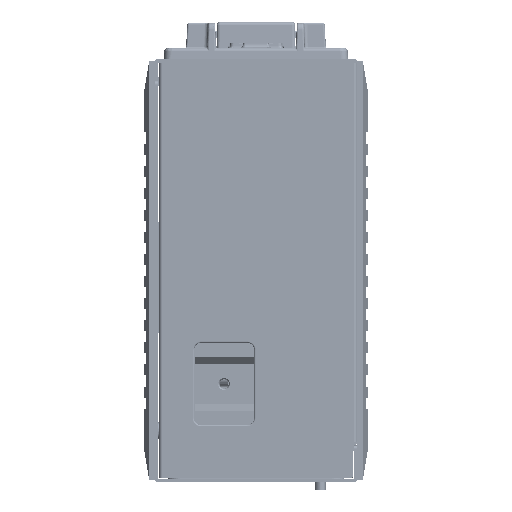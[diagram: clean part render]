
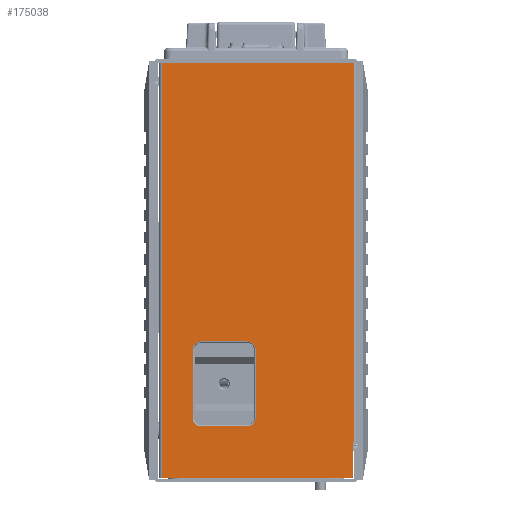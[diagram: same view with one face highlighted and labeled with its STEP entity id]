
A CAD part, left-side view. The second image highlights one B-rep face of the part: STEP entity #175038.
In plain terms, the highlighted planar face has unit normal (-1, 0, 0).
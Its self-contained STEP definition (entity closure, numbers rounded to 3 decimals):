
#3411=DIRECTION('',(0.,0.,-1.));
#3412=VECTOR('',#3411,103.);
#3413=CARTESIAN_POINT('',(-78.5,0.,55.3));
#3414=LINE('',#3413,#3412);
#3427=DIRECTION('',(0.,1.,0.));
#3428=VECTOR('',#3427,0.1);
#3429=CARTESIAN_POINT('',(-78.5,0.,-47.7));
#3430=LINE('',#3429,#3428);
#36468=DIRECTION('',(0.,0.,1.));
#36469=VECTOR('',#36468,8.9);
#36470=CARTESIAN_POINT('',(-78.5,0.1,-56.6));
#36471=LINE('',#36470,#36469);
#36472=CARTESIAN_POINT('',(-78.5,1.1,-56.6));
#36473=DIRECTION('',(-1.,0.,0.));
#36474=DIRECTION('',(0.,0.,-1.));
#36475=AXIS2_PLACEMENT_3D('',#36472,#36473,#36474);
#36477=DIRECTION('',(0.,-1.,0.));
#36478=VECTOR('',#36477,50.8);
#36479=CARTESIAN_POINT('',(-78.5,51.9,-57.6));
#36480=LINE('',#36479,#36478);
#36481=DIRECTION('',(0.,1.,0.));
#36482=VECTOR('',#36481,51.9);
#36483=CARTESIAN_POINT('',(-78.5,0.,55.3));
#36484=LINE('',#36483,#36482);
#36485=CARTESIAN_POINT('',(-78.5,41.4,-22.75));
#36486=DIRECTION('',(1.,0.,0.));
#36487=DIRECTION('',(0.,1.,0.));
#36488=AXIS2_PLACEMENT_3D('',#36485,#36486,#36487);
#36490=CARTESIAN_POINT('',(-78.5,41.4,-41.25));
#36491=DIRECTION('',(1.,0.,0.));
#36492=DIRECTION('',(0.,0.,-1.));
#36493=AXIS2_PLACEMENT_3D('',#36490,#36491,#36492);
#36495=CARTESIAN_POINT('',(-78.5,28.9,-41.25));
#36496=DIRECTION('',(1.,0.,0.));
#36497=DIRECTION('',(0.,-1.,0.));
#36498=AXIS2_PLACEMENT_3D('',#36495,#36496,#36497);
#36500=CARTESIAN_POINT('',(-78.5,28.9,-22.75));
#36501=DIRECTION('',(1.,0.,0.));
#36502=DIRECTION('',(0.,0.,1.));
#36503=AXIS2_PLACEMENT_3D('',#36500,#36501,#36502);
#36517=DIRECTION('',(0.,0.,1.));
#36518=VECTOR('',#36517,112.9);
#36519=CARTESIAN_POINT('',(-78.5,51.9,-57.6));
#36520=LINE('',#36519,#36518);
#36533=DIRECTION('',(0.,1.,0.));
#36534=VECTOR('',#36533,12.5);
#36535=CARTESIAN_POINT('',(-78.5,28.9,-20.45));
#36536=LINE('',#36535,#36534);
#36551=DIRECTION('',(0.,0.,-1.));
#36552=VECTOR('',#36551,18.5);
#36553=CARTESIAN_POINT('',(-78.5,43.7,-22.75));
#36554=LINE('',#36553,#36552);
#36569=DIRECTION('',(0.,-1.,0.));
#36570=VECTOR('',#36569,12.5);
#36571=CARTESIAN_POINT('',(-78.5,41.4,-43.55));
#36572=LINE('',#36571,#36570);
#36587=DIRECTION('',(0.,0.,1.));
#36588=VECTOR('',#36587,18.5);
#36589=CARTESIAN_POINT('',(-78.5,26.6,-41.25));
#36590=LINE('',#36589,#36588);
#80819=CARTESIAN_POINT('',(-78.5,0.1,-47.7));
#80820=VERTEX_POINT('',#80819);
#80847=CARTESIAN_POINT('',(-78.5,0.1,-56.6));
#80848=VERTEX_POINT('',#80847);
#80849=CARTESIAN_POINT('',(-78.5,0.,-47.7));
#80850=VERTEX_POINT('',#80849);
#80855=CARTESIAN_POINT('',(-78.5,0.,55.3));
#80856=CARTESIAN_POINT('',(-78.5,51.9,55.3));
#80857=VERTEX_POINT('',#80855);
#80858=VERTEX_POINT('',#80856);
#80871=CARTESIAN_POINT('',(-78.5,1.1,-57.6));
#80872=VERTEX_POINT('',#80871);
#80879=CARTESIAN_POINT('',(-78.5,51.9,-57.6));
#80880=VERTEX_POINT('',#80879);
#80935=CARTESIAN_POINT('',(-78.5,28.9,-20.45));
#80936=CARTESIAN_POINT('',(-78.5,41.4,-20.45));
#80937=VERTEX_POINT('',#80935);
#80938=VERTEX_POINT('',#80936);
#80955=CARTESIAN_POINT('',(-78.5,26.6,-22.75));
#80956=VERTEX_POINT('',#80955);
#80957=CARTESIAN_POINT('',(-78.5,43.7,-22.75));
#80958=VERTEX_POINT('',#80957);
#80975=CARTESIAN_POINT('',(-78.5,26.6,-41.25));
#80976=VERTEX_POINT('',#80975);
#80977=CARTESIAN_POINT('',(-78.5,43.7,-41.25));
#80978=VERTEX_POINT('',#80977);
#80991=CARTESIAN_POINT('',(-78.5,28.9,-43.55));
#80992=VERTEX_POINT('',#80991);
#80995=CARTESIAN_POINT('',(-78.5,41.4,-43.55));
#80996=VERTEX_POINT('',#80995);
#175004=CARTESIAN_POINT('',(-78.5,0.,-47.7));
#175005=DIRECTION('',(1.,0.,0.));
#175006=DIRECTION('',(0.,0.,-1.));
#175007=AXIS2_PLACEMENT_3D('',#175004,#175005,#175006);
#175008=PLANE('',#175007);
#175010=ORIENTED_EDGE('',*,*,#175009,.F.);
#175011=ORIENTED_EDGE('',*,*,#174989,.F.);
#175012=ORIENTED_EDGE('',*,*,#174927,.F.);
#175014=ORIENTED_EDGE('',*,*,#175013,.T.);
#175015=ORIENTED_EDGE('',*,*,#111235,.F.);
#175016=ORIENTED_EDGE('',*,*,#111266,.T.);
#175017=ORIENTED_EDGE('',*,*,#111293,.T.);
#175018=EDGE_LOOP('',(#175010,#175011,#175012,#175014,#175015,#175016,#175017));
#175019=FACE_OUTER_BOUND('',#175018,.F.);
#175021=ORIENTED_EDGE('',*,*,#175020,.T.);
#175023=ORIENTED_EDGE('',*,*,#175022,.F.);
#175025=ORIENTED_EDGE('',*,*,#175024,.T.);
#175027=ORIENTED_EDGE('',*,*,#175026,.F.);
#175029=ORIENTED_EDGE('',*,*,#175028,.T.);
#175031=ORIENTED_EDGE('',*,*,#175030,.F.);
#175033=ORIENTED_EDGE('',*,*,#175032,.T.);
#175035=ORIENTED_EDGE('',*,*,#175034,.F.);
#175036=EDGE_LOOP('',(#175021,#175023,#175025,#175027,#175029,#175031,#175033,
#175035));
#175037=FACE_BOUND('',#175036,.F.);
#36476=CIRCLE('',#36475,1.);
#36489=CIRCLE('',#36488,2.3);
#36494=CIRCLE('',#36493,2.3);
#36499=CIRCLE('',#36498,2.3);
#36504=CIRCLE('',#36503,2.3);
#111235=EDGE_CURVE('',#80857,#80858,#36484,.T.);
#111266=EDGE_CURVE('',#80857,#80850,#3414,.T.);
#111293=EDGE_CURVE('',#80850,#80820,#3430,.T.);
#174927=EDGE_CURVE('',#80880,#80872,#36480,.T.);
#174989=EDGE_CURVE('',#80872,#80848,#36476,.T.);
#175009=EDGE_CURVE('',#80848,#80820,#36471,.T.);
#175013=EDGE_CURVE('',#80880,#80858,#36520,.T.);
#175020=EDGE_CURVE('',#80937,#80938,#36536,.T.);
#175022=EDGE_CURVE('',#80958,#80938,#36489,.T.);
#175024=EDGE_CURVE('',#80958,#80978,#36554,.T.);
#175026=EDGE_CURVE('',#80996,#80978,#36494,.T.);
#175028=EDGE_CURVE('',#80996,#80992,#36572,.T.);
#175030=EDGE_CURVE('',#80976,#80992,#36499,.T.);
#175032=EDGE_CURVE('',#80976,#80956,#36590,.T.);
#175034=EDGE_CURVE('',#80937,#80956,#36504,.T.);
#175038=ADVANCED_FACE('',(#175019,#175037),#175008,.F.);
